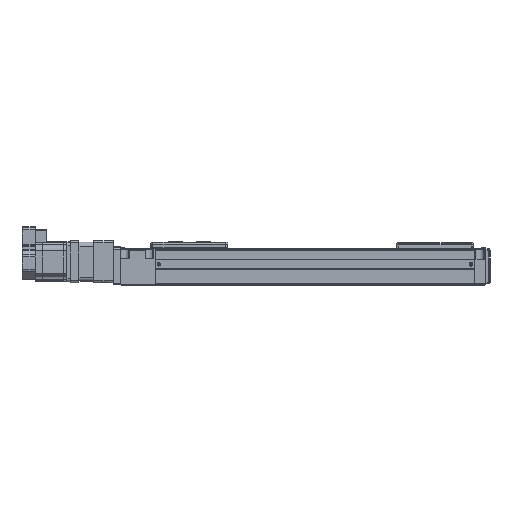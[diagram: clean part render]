
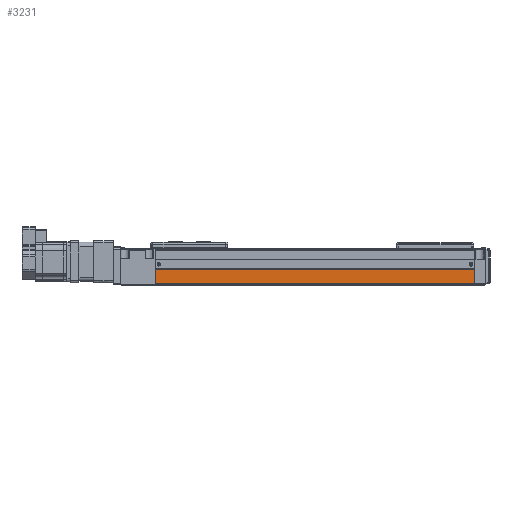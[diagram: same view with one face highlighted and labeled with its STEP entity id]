
A CAD part, front view. The second image highlights one B-rep face of the part: STEP entity #3231.
In plain terms, the highlighted planar face has unit normal (0, -1, 0).
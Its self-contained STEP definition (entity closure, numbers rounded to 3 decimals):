
#3231=ADVANCED_FACE('',(#8155),#8156,.F.);
#8155=FACE_OUTER_BOUND('',#15510,.T.);
#8156=PLANE('',#15511);
#15510=EDGE_LOOP('',(#25459,#25460,#25461,#25462));
#15511=AXIS2_PLACEMENT_3D('',#25463,#25464,#25465);
#25459=ORIENTED_EDGE('',*,*,#45328,.F.);
#25460=ORIENTED_EDGE('',*,*,#45329,.T.);
#25461=ORIENTED_EDGE('',*,*,#45330,.F.);
#25462=ORIENTED_EDGE('',*,*,#45331,.F.);
#25463=CARTESIAN_POINT('',(792.528,-103.2,-44.15));
#25464=DIRECTION('',(0.,1.0,0.0));
#25465=DIRECTION('',(0.0,0.0,1.0));
#45328=EDGE_CURVE('',#54688,#54689,#54690,.T.);
#45329=EDGE_CURVE('',#54688,#54691,#54692,.T.);
#45330=EDGE_CURVE('',#54693,#54691,#54694,.T.);
#45331=EDGE_CURVE('',#54689,#54693,#54695,.T.);
#54688=VERTEX_POINT('',#67829);
#54689=VERTEX_POINT('',#67830);
#54690=LINE('',#67831,#67832);
#54691=VERTEX_POINT('',#67833);
#54692=LINE('',#67834,#67835);
#54693=VERTEX_POINT('',#67836);
#54694=LINE('',#67837,#67838);
#54695=LINE('',#67839,#67840);
#67829=CARTESIAN_POINT('',(792.528,-103.2,-23.15));
#67830=CARTESIAN_POINT('',(1247.528,-103.2,-23.15));
#67831=CARTESIAN_POINT('',(1020.028,-103.2,-23.15));
#67832=VECTOR('',#83145,1.784);
#67833=CARTESIAN_POINT('',(792.528,-103.2,-44.15));
#67834=CARTESIAN_POINT('',(792.528,-103.2,-20.15));
#67835=VECTOR('',#83146,1.0);
#67836=CARTESIAN_POINT('',(1247.528,-103.2,-44.15));
#67837=CARTESIAN_POINT('',(1020.028,-103.2,-44.15));
#67838=VECTOR('',#83147,1.784);
#67839=CARTESIAN_POINT('',(1247.528,-103.2,-20.15));
#67840=VECTOR('',#83148,1.0);
#83145=DIRECTION('',(1.0,0.,0.0));
#83146=DIRECTION('',(0.0,0.0,-1.0));
#83147=DIRECTION('',(-1.0,0.,0.0));
#83148=DIRECTION('',(0.0,0.0,-1.0));
